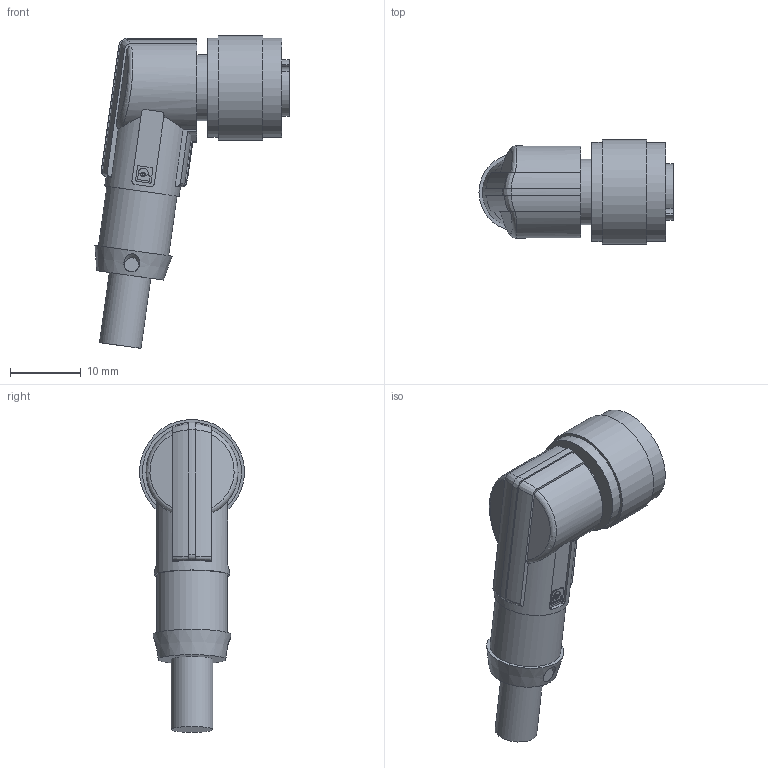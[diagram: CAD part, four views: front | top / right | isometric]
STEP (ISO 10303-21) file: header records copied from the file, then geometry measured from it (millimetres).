
FILE_DESCRIPTION( ( 'Unknown' ), '1' );
FILE_NAME( '//baumernet.org/ch01apps/SolidEdge/Models/Dokumentationen/_Standardteile/Kabeldosen/Phoenix/ES 33/Vereinfachte Modelle/Neutralformate/ESW 33SH.stp', 'Unknown', ( 'Unknown' ), ( 'Unknown' ), 'PSStep 10.0', 'Unknown', ' ' );
FILE_SCHEMA( ( 'AUTOMOTIVE_DESIGN { 1 0 10303 214 1 1 1 1 }' ) );
Length unit declared in the file: millimetre
Products named in the file (1): 1694509
Bounding box: 27.4 x 14.74 x 44.17 mm (x, y, z)
Volume: 4922.3 mm3; surface area: 3088.4 mm2
Topology: 1 solids, 1 shells, 176 faces, 448 edges, 298 vertices
Faces by surface type: plane 79, cylinder 49, extrusion 28, cone 9, torus 6, bspline 5
Full cylindrical faces by diameter (mm): 1.2 x3, 1.8 x2, 5.9 x1, 9.3 x1, 10 x1, 10.6 x1, 11 x1, 12.671 x1, 14 x2, 14.8 x1
Entity records: 10796 total; most frequent: CARTESIAN_POINT 5357, ORIENTED_EDGE 840, DIRECTION 736, EDGE_CURVE 420, VERTEX_POINT 293, AXIS2_PLACEMENT_3D 260, EDGE_LOOP 223, VECTOR 216
